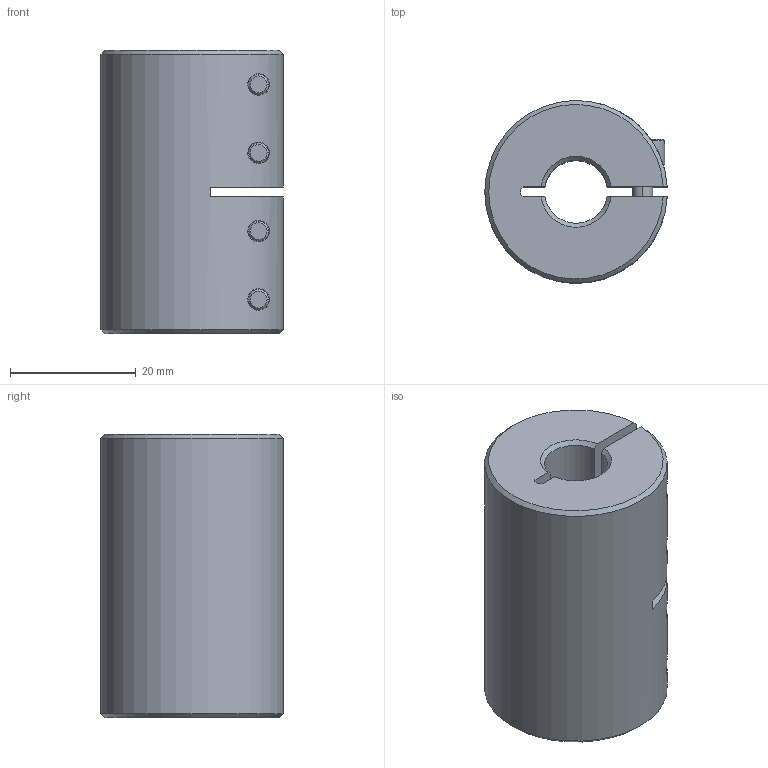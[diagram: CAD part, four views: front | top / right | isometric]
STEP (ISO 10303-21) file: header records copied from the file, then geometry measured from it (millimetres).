
FILE_DESCRIPTION((''),'2;1');
FILE_NAME('MCLX-10-10-F','2016-09-07T',('SYSTEM'),(''),'PRO/ENGINEER BY PARAMETRIC TECHNOLOGY CORPORATION, 2015110','PRO/ENGINEER BY PARAMETRIC TECHNOLOGY CORPORATION, 2015110','');
FILE_SCHEMA(('AUTOMOTIVE_DESIGN { 1 0 10303 214 1 1 1 1 }'));
Length unit declared in the file: inch
Products named in the file (1): MCLX-10-10-F
Bounding box: 28.98 x 28.99 x 45 mm (x, y, z)
Volume: 24328.2 mm3; surface area: 9695.5 mm2
Topology: 1 solids, 1 shells, 126 faces, 301 edges, 193 vertices
Faces by surface type: plane 65, cylinder 39, cone 22
Entity records: 4869 total; most frequent: CARTESIAN_POINT 931, DIRECTION 634, ORIENTED_EDGE 602, EDGE_CURVE 301, AXIS2_PLACEMENT_3D 231, VERTEX_POINT 193, VECTOR 172, LINE 172
